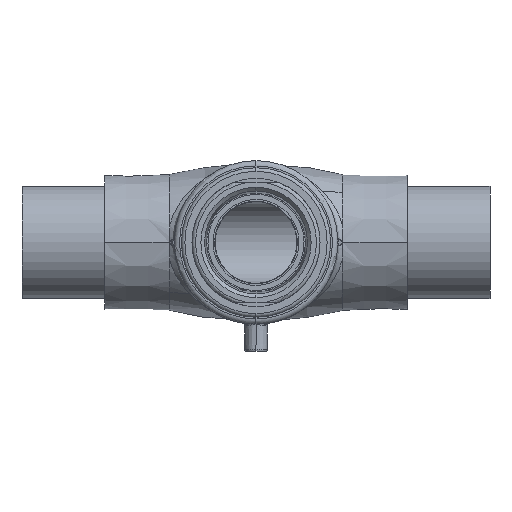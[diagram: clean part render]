
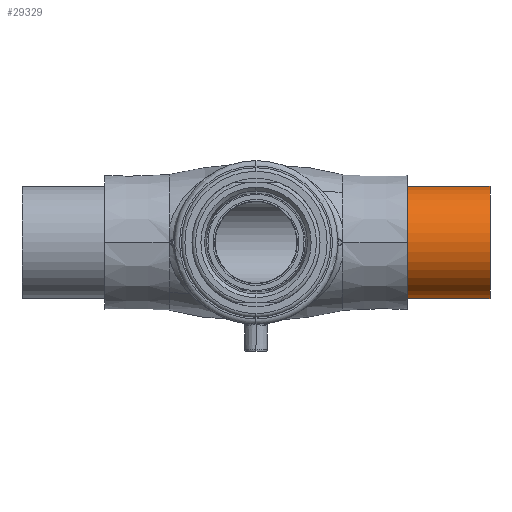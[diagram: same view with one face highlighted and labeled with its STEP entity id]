
A CAD part, left-side view. The second image highlights one B-rep face of the part: STEP entity #29329.
In plain terms, the highlighted cylindrical face has radius 31.5 mm (diameter 63 mm), a partial arc.
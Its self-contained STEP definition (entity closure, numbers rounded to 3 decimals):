
#10127 = LINE ( 'NONE', #10166, #20585 ) ;
#10166 = CARTESIAN_POINT ( 'NONE',  ( 389.348, -290.631, -477.223 ) ) ;
#10170 = DIRECTION ( 'NONE',  ( 0., 1., 0. ) ) ;
#10171 = LINE ( 'NONE', #10172, #20590 ) ;
#10172 = CARTESIAN_POINT ( 'NONE',  ( 389.348, -290.631, -414.223 ) ) ;
#10173 = CARTESIAN_POINT ( 'NONE',  ( 389.348, -210.371, -445.723 ) ) ;
#10174 = DIRECTION ( 'NONE',  ( 0., -1., 0. ) ) ;
#10175 = DIRECTION ( 'NONE',  ( 0., 0., 1. ) ) ;
#10176 = DIRECTION ( 'NONE',  ( 0., 1., 0. ) ) ;
#10179 = CARTESIAN_POINT ( 'NONE',  ( 389.348, -290.631, -445.723 ) ) ;
#10180 = DIRECTION ( 'NONE',  ( 0., -1., 0. ) ) ;
#10181 = DIRECTION ( 'NONE',  ( 0., 0., 1. ) ) ;
#15535 = CARTESIAN_POINT ( 'NONE',  ( 389.348, -210.371, -414.223 ) ) ;
#15544 = CARTESIAN_POINT ( 'NONE',  ( 389.348, -210.371, -477.223 ) ) ;
#15554 = CARTESIAN_POINT ( 'NONE',  ( 389.348, -290.631, -414.223 ) ) ;
#15560 = CARTESIAN_POINT ( 'NONE',  ( 389.348, -290.631, -477.223 ) ) ;
#17011 = DIRECTION ( 'NONE',  ( 0., 1., 0. ) ) ;
#17013 = CYLINDRICAL_SURFACE ( 'NONE', #20805, 31.5 ) ;
#17014 = FACE_OUTER_BOUND ( 'NONE', #32842, .T. ) ;
#17015 = CARTESIAN_POINT ( 'NONE',  ( 389.348, -290.631, -445.723 ) ) ;
#17019 = DIRECTION ( 'NONE',  ( 0., 0., -1. ) ) ;
#20585 = VECTOR ( 'NONE', #10170, 1000. ) ;
#20589 = CIRCLE ( 'NONE', #20591, 31.5 ) ;
#20590 = VECTOR ( 'NONE', #10176, 1000. ) ;
#20591 = AXIS2_PLACEMENT_3D ( 'NONE', #10173, #10174, #10175 ) ;
#20592 = CIRCLE ( 'NONE', #20594, 31.5 ) ;
#20594 = AXIS2_PLACEMENT_3D ( 'NONE', #10179, #10180, #10181 ) ;
#20805 = AXIS2_PLACEMENT_3D ( 'NONE', #17015, #17011, #17019 ) ;
#28120 = ORIENTED_EDGE ( 'NONE', *, *, #28940, .F. ) ;
#28122 = ORIENTED_EDGE ( 'NONE', *, *, #28937, .T. ) ;
#28124 = ORIENTED_EDGE ( 'NONE', *, *, #28935, .T. ) ;
#28126 = ORIENTED_EDGE ( 'NONE', *, *, #28933, .F. ) ;
#28933 = EDGE_CURVE ( 'NONE', #38661, #38615, #10127, .T. ) ;
#28935 = EDGE_CURVE ( 'NONE', #38594, #38615, #20589, .T. ) ;
#28937 = EDGE_CURVE ( 'NONE', #38644, #38594, #10171, .T. ) ;
#28940 = EDGE_CURVE ( 'NONE', #38644, #38661, #20592, .T. ) ;
#29329 = ADVANCED_FACE ( 'NONE', ( #17014 ), #17013, .T. ) ;
#32842 = EDGE_LOOP ( 'NONE', ( #28120, #28122, #28124, #28126 ) ) ;
#38594 = VERTEX_POINT ( 'NONE', #15535 ) ;
#38615 = VERTEX_POINT ( 'NONE', #15544 ) ;
#38644 = VERTEX_POINT ( 'NONE', #15554 ) ;
#38661 = VERTEX_POINT ( 'NONE', #15560 ) ;
